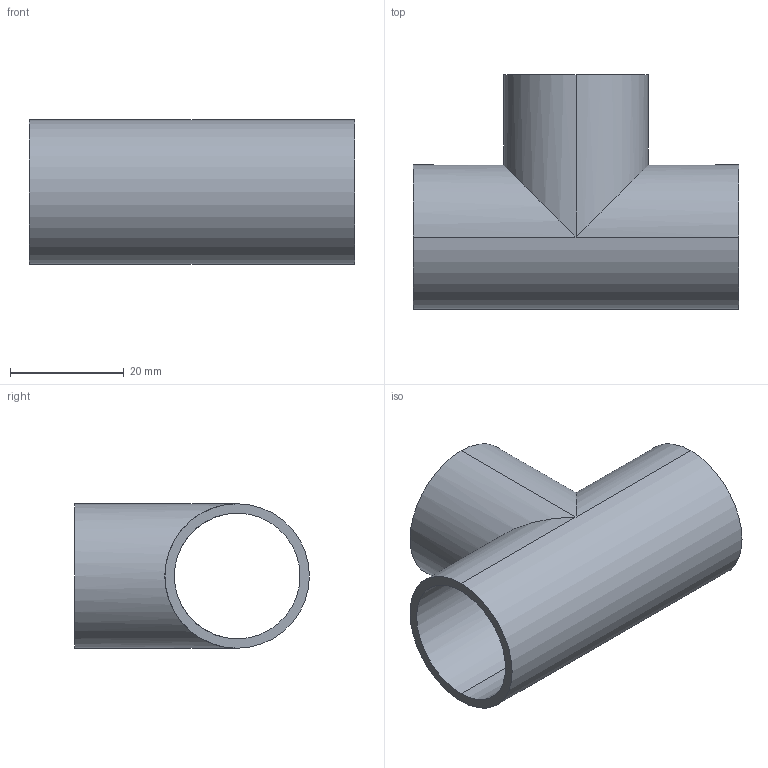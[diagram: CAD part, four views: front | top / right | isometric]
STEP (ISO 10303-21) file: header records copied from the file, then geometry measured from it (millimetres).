
FILE_DESCRIPTION (( 'STEP AP203' ), '1' );
FILE_NAME ('E7WWW1.0.STEP', '2018-05-02T18:02:44', ( 'vneprd' ), ( 'Microsoft' ), 'SwSTEP 2.0', 'SolidWorks 2014', '' );
FILE_SCHEMA (( 'CONFIG_CONTROL_DESIGN' ));
Length unit declared in the file: inch
Products named in the file (1): E7WWW1.0
Bounding box: 57.15 x 41.27 x 25.4 mm (x, y, z)
Volume: 8694.3 mm3; surface area: 10894.4 mm2
Topology: 1 solids, 1 shells, 13 faces, 28 edges, 16 vertices
Faces by surface type: cylinder 10, plane 3
Entity records: 437 total; most frequent: CARTESIAN_POINT 70, DIRECTION 64, ORIENTED_EDGE 56, EDGE_CURVE 28, AXIS2_PLACEMENT_3D 26, VERTEX_POINT 16, EDGE_LOOP 16, ADVANCED_FACE 13
